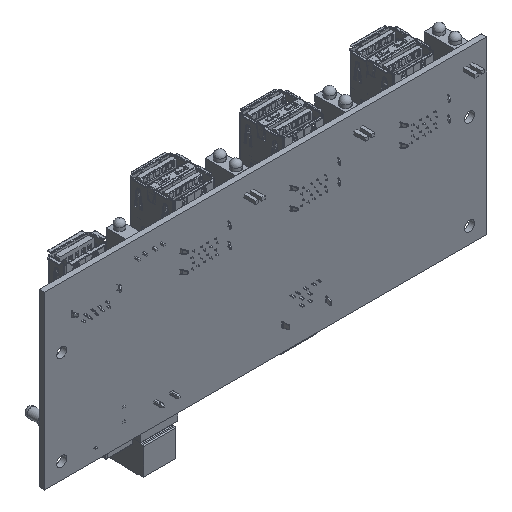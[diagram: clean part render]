
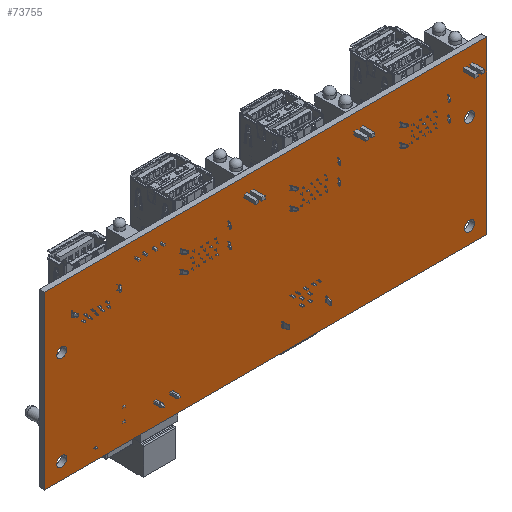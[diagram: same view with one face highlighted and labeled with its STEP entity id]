
A CAD part, isometric view. The second image highlights one B-rep face of the part: STEP entity #73755.
In plain terms, the highlighted planar face has unit normal (0, -1, 0).
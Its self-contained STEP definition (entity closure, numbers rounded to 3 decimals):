
#3059=FACE_BOUND('',#29009,.T.);
#3060=FACE_BOUND('',#29010,.T.);
#3061=FACE_BOUND('',#29011,.T.);
#3062=FACE_BOUND('',#29012,.T.);
#3063=FACE_BOUND('',#29013,.T.);
#3064=FACE_BOUND('',#29014,.T.);
#3578=PLANE('',#78408);
#6916=LINE('',#106193,#15775);
#6917=LINE('',#106195,#15776);
#6918=LINE('',#106197,#15777);
#6919=LINE('',#106198,#15778);
#6920=LINE('',#106201,#15779);
#6921=LINE('',#106203,#15780);
#6922=LINE('',#106205,#15781);
#6923=LINE('',#106206,#15782);
#6924=LINE('',#106209,#15783);
#6925=LINE('',#106211,#15784);
#6926=LINE('',#106213,#15785);
#6927=LINE('',#106214,#15786);
#15775=VECTOR('',#85595,10.);
#15776=VECTOR('',#85596,10.);
#15777=VECTOR('',#85597,10.);
#15778=VECTOR('',#85598,10.);
#15779=VECTOR('',#85599,10.);
#15780=VECTOR('',#85600,10.);
#15781=VECTOR('',#85601,10.);
#15782=VECTOR('',#85602,10.);
#15783=VECTOR('',#85603,10.);
#15784=VECTOR('',#85604,10.);
#15785=VECTOR('',#85605,10.);
#15786=VECTOR('',#85606,10.);
#25159=FACE_OUTER_BOUND('',#29008,.T.);
#29008=EDGE_LOOP('',(#53840,#53841,#53842,#53843));
#29009=EDGE_LOOP('',(#53844,#53845,#53846,#53847));
#29010=EDGE_LOOP('',(#53848,#53849,#53850,#53851));
#29011=EDGE_LOOP('',(#53852));
#29012=EDGE_LOOP('',(#53853));
#29013=EDGE_LOOP('',(#53854));
#29014=EDGE_LOOP('',(#53855));
#32885=CIRCLE('',#78409,1.6);
#32886=CIRCLE('',#78410,1.6);
#32887=CIRCLE('',#78411,1.6);
#32888=CIRCLE('',#78412,1.6);
#34734=VERTEX_POINT('',#106191);
#34735=VERTEX_POINT('',#106192);
#34736=VERTEX_POINT('',#106194);
#34737=VERTEX_POINT('',#106196);
#34738=VERTEX_POINT('',#106199);
#34739=VERTEX_POINT('',#106200);
#34740=VERTEX_POINT('',#106202);
#34741=VERTEX_POINT('',#106204);
#34742=VERTEX_POINT('',#106207);
#34743=VERTEX_POINT('',#106208);
#34744=VERTEX_POINT('',#106210);
#34745=VERTEX_POINT('',#106212);
#34746=VERTEX_POINT('',#106215);
#34747=VERTEX_POINT('',#106217);
#34748=VERTEX_POINT('',#106219);
#34749=VERTEX_POINT('',#106221);
#42102=EDGE_CURVE('',#34734,#34735,#6916,.T.);
#42103=EDGE_CURVE('',#34736,#34734,#6917,.T.);
#42104=EDGE_CURVE('',#34737,#34736,#6918,.T.);
#42105=EDGE_CURVE('',#34735,#34737,#6919,.T.);
#42106=EDGE_CURVE('',#34738,#34739,#6920,.T.);
#42107=EDGE_CURVE('',#34740,#34738,#6921,.T.);
#42108=EDGE_CURVE('',#34741,#34740,#6922,.T.);
#42109=EDGE_CURVE('',#34739,#34741,#6923,.T.);
#42110=EDGE_CURVE('',#34742,#34743,#6924,.T.);
#42111=EDGE_CURVE('',#34744,#34742,#6925,.T.);
#42112=EDGE_CURVE('',#34745,#34744,#6926,.T.);
#42113=EDGE_CURVE('',#34743,#34745,#6927,.T.);
#42114=EDGE_CURVE('',#34746,#34746,#32885,.T.);
#42115=EDGE_CURVE('',#34747,#34747,#32886,.T.);
#42116=EDGE_CURVE('',#34748,#34748,#32887,.T.);
#42117=EDGE_CURVE('',#34749,#34749,#32888,.T.);
#53840=ORIENTED_EDGE('',*,*,#42102,.F.);
#53841=ORIENTED_EDGE('',*,*,#42103,.F.);
#53842=ORIENTED_EDGE('',*,*,#42104,.F.);
#53843=ORIENTED_EDGE('',*,*,#42105,.F.);
#53844=ORIENTED_EDGE('',*,*,#42106,.F.);
#53845=ORIENTED_EDGE('',*,*,#42107,.F.);
#53846=ORIENTED_EDGE('',*,*,#42108,.F.);
#53847=ORIENTED_EDGE('',*,*,#42109,.F.);
#53848=ORIENTED_EDGE('',*,*,#42110,.F.);
#53849=ORIENTED_EDGE('',*,*,#42111,.F.);
#53850=ORIENTED_EDGE('',*,*,#42112,.F.);
#53851=ORIENTED_EDGE('',*,*,#42113,.F.);
#53852=ORIENTED_EDGE('',*,*,#42114,.F.);
#53853=ORIENTED_EDGE('',*,*,#42115,.F.);
#53854=ORIENTED_EDGE('',*,*,#42116,.F.);
#53855=ORIENTED_EDGE('',*,*,#42117,.F.);
#73755=ADVANCED_FACE('',(#25159,#3059,#3060,#3061,#3062,#3063,#3064),#3578,
 .F.);
#78408=AXIS2_PLACEMENT_3D('',#106190,#85593,#85594);
#78409=AXIS2_PLACEMENT_3D('',#106216,#85607,#85608);
#78410=AXIS2_PLACEMENT_3D('',#106218,#85609,#85610);
#78411=AXIS2_PLACEMENT_3D('',#106220,#85611,#85612);
#78412=AXIS2_PLACEMENT_3D('',#106222,#85613,#85614);
#85593=DIRECTION('center_axis',(0.,1.,0.));
#85594=DIRECTION('ref_axis',(1.,0.,0.));
#85595=DIRECTION('',(0.,0.,1.));
#85596=DIRECTION('',(-1.,0.,0.));
#85597=DIRECTION('',(0.,0.,-1.));
#85598=DIRECTION('',(1.,0.,0.));
#85599=DIRECTION('',(-1.,0.,0.));
#85600=DIRECTION('',(0.,0.,1.));
#85601=DIRECTION('',(1.,0.,0.));
#85602=DIRECTION('',(0.,0.,-1.));
#85603=DIRECTION('',(-1.,0.,0.));
#85604=DIRECTION('',(0.,0.,1.));
#85605=DIRECTION('',(1.,0.,0.));
#85606=DIRECTION('',(0.,0.,-1.));
#85607=DIRECTION('center_axis',(0.,-1.,0.));
#85608=DIRECTION('ref_axis',(1.,0.,0.));
#85609=DIRECTION('center_axis',(0.,-1.,0.));
#85610=DIRECTION('ref_axis',(1.,0.,0.));
#85611=DIRECTION('center_axis',(0.,-1.,0.));
#85612=DIRECTION('ref_axis',(1.,0.,0.));
#85613=DIRECTION('center_axis',(0.,-1.,0.));
#85614=DIRECTION('ref_axis',(1.,0.,0.));
#106190=CARTESIAN_POINT('Origin',(70.59,0.,-27.33));
#106191=CARTESIAN_POINT('',(0.,0.,-54.66));
#106192=CARTESIAN_POINT('',(0.,0.,0.));
#106193=CARTESIAN_POINT('',(0.,0.,-54.66));
#106194=CARTESIAN_POINT('',(141.18,0.,-54.66));
#106195=CARTESIAN_POINT('',(141.18,0.,-54.66));
#106196=CARTESIAN_POINT('',(141.18,0.,0.));
#106197=CARTESIAN_POINT('',(141.18,0.,0.));
#106198=CARTESIAN_POINT('',(0.,0.,0.));
#106199=CARTESIAN_POINT('',(34.857,0.,-4.726));
#106200=CARTESIAN_POINT('',(34.349,0.,-4.726));
#106201=CARTESIAN_POINT('',(52.47,0.,-4.726));
#106202=CARTESIAN_POINT('',(34.857,0.,-5.234));
#106203=CARTESIAN_POINT('',(34.857,0.,-16.028));
#106204=CARTESIAN_POINT('',(34.349,0.,-5.234));
#106205=CARTESIAN_POINT('',(52.597,0.,-5.234));
#106206=CARTESIAN_POINT('',(34.349,0.,-16.282));
#106207=CARTESIAN_POINT('',(37.397,0.,-4.726));
#106208=CARTESIAN_POINT('',(36.889,0.,-4.726));
#106209=CARTESIAN_POINT('',(53.74,0.,-4.726));
#106210=CARTESIAN_POINT('',(37.397,0.,-5.234));
#106211=CARTESIAN_POINT('',(37.397,0.,-16.028));
#106212=CARTESIAN_POINT('',(36.889,0.,-5.234));
#106213=CARTESIAN_POINT('',(53.867,0.,-5.234));
#106214=CARTESIAN_POINT('',(36.889,0.,-16.282));
#106215=CARTESIAN_POINT('',(134.08,0.,-19.4));
#106216=CARTESIAN_POINT('Origin',(135.68,0.,-19.4));
#106217=CARTESIAN_POINT('',(134.08,0.,-49.5));
#106218=CARTESIAN_POINT('Origin',(135.68,0.,-49.5));
#106219=CARTESIAN_POINT('',(3.9,0.,-49.5));
#106220=CARTESIAN_POINT('Origin',(5.5,0.,-49.5));
#106221=CARTESIAN_POINT('',(3.9,0.,-19.4));
#106222=CARTESIAN_POINT('Origin',(5.5,0.,-19.4));
